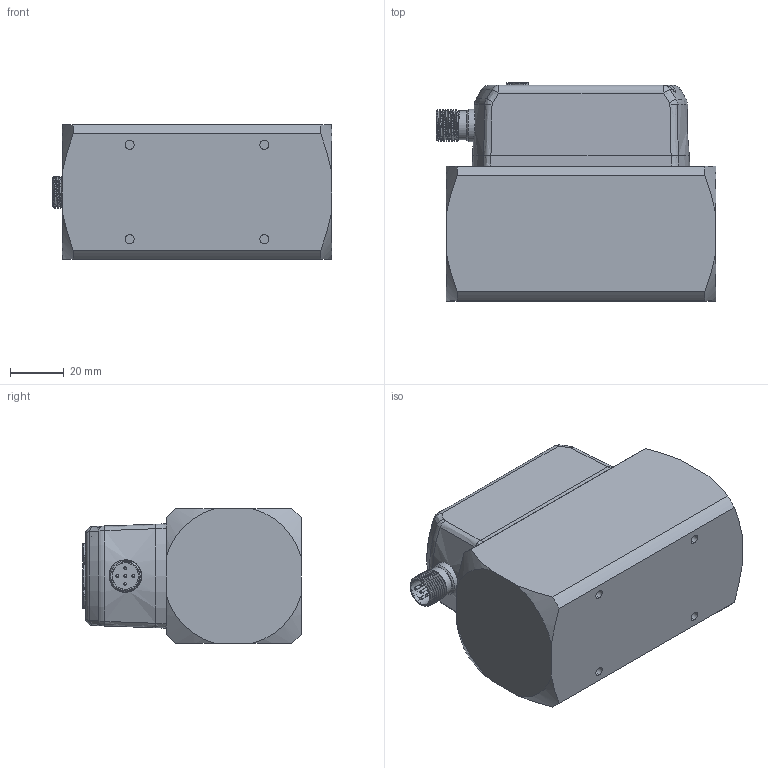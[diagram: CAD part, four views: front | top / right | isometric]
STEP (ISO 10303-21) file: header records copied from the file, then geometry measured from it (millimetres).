
FILE_DESCRIPTION( (''), '2;1');
FILE_NAME( 'QEKH_DN20_female-thread_standard.step', '2025-04-28T16:05:47+08:00', (''), (''), '', '', '');
FILE_SCHEMA (('AUTOMOTIVE_DESIGN { 1 0 10303 214 3 1 1 1 }'));
Length unit declared in the file: millimetre
Products named in the file (1): QEKH DN20_female-thread_standard
Bounding box: 103.71 x 80.9 x 50 mm (x, y, z)
Volume: 346604.5 mm3; surface area: 57880.6 mm2
Topology: 9 solids, 12 shells, 1092 faces, 2882 edges, 1884 vertices
Faces by surface type: plane 537, extrusion 239, cylinder 181, cone 50, bspline 44, torus 32, sphere 9
Full cylindrical faces by diameter (mm): 1 x10, 2.6 x4, 2.7 x5, 3.1 x1, 3.5 x7, 4.5 x4, 9.8 x2, 10.8 x1, 11.992 x2, 12 x4
Entity records: 37756 total; most frequent: CARTESIAN_POINT 11855, ORIENTED_EDGE 5580, DIRECTION 4457, EDGE_CURVE 2790, VECTOR 1875, VERTEX_POINT 1852, LINE 1636, AXIS2_PLACEMENT_3D 1291
